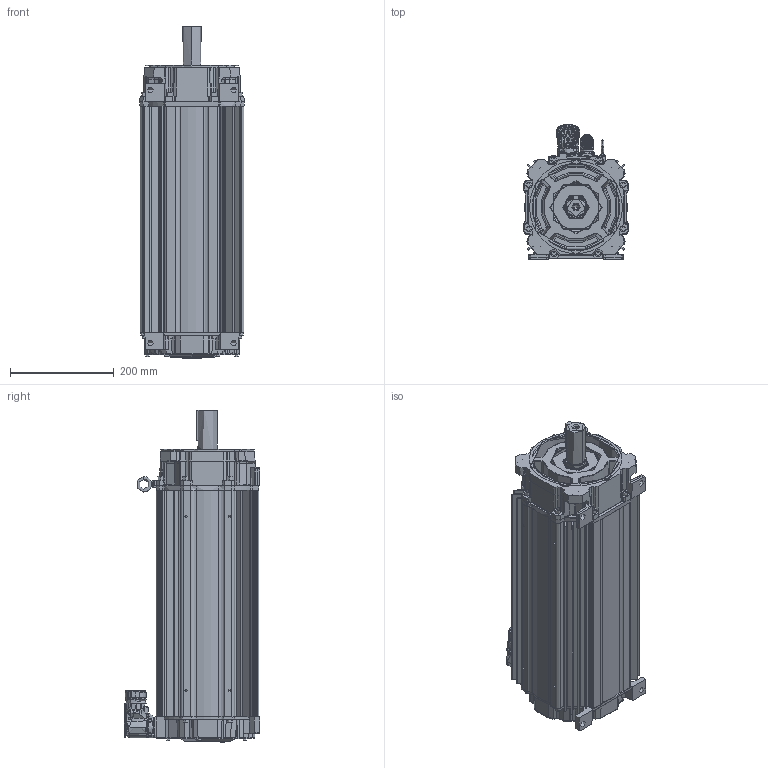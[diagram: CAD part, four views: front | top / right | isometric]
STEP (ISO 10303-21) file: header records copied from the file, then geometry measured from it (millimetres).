
FILE_DESCRIPTION((''),'2;1');
FILE_NAME('10005237081_ASM','2020-01-15T15:48:55',('VThimma'),('Rockwell Automation'),'CREO PARAMETRIC BY PTC INC, 2017380','CREO PARAMETRIC BY PTC INC, 2017380','');
FILE_SCHEMA(('CONFIG_CONTROL_DESIGN','SHAPE_APPEARANCE_LAYERS_GROUPS'));
Products named in the file (27): 10001371539; 10001238886_AF0; 10001298482_AF22; 10001284445_ASM; CH31X150; 10001751331_ASM; 10001788330; 10001830714_ASM; 10001257630_AF255; 10001300098_AF227; 10001284488_ASM; 10001586886; 10000172464; 0002-5005; 10000014325-2; 10000014331; 10000014332-460; 10000014330-460_ASM; PWR40CONN-BRK; PWR40BASE; 10000806125_ASM; 221404-Q12; 10000569218; 10001290343; 0011-2066; 10001609981; 10005237081_ASM
Assembly tree (54 placements, depth 4):
  10005237081_ASM
    10001751331_ASM
      10001371539
      10001284445_ASM
        10001238886_AF0
        10001298482_AF22
      CH31X150  x8
    10001830714_ASM
      10001788330
    10001284488_ASM
      10001257630_AF255
      10001300098_AF227
    10001586886  x8
    10000172464  x5
    0002-5005  x2
    10000014330-460_ASM
      10000014325-2
      10000014331
      10000014332-460
    10000806125_ASM
      PWR40CONN-BRK
      PWR40BASE
    221404-Q12  x10
    10000569218
    10001290343
    0011-2066
    10001609981
Bounding box: 200.45 x 260.05 x 638.79 mm (x, y, z)
Topology: 0 solids, 72 shells, 7493 faces, 19349 edges, 12019 vertices
Faces by surface type: cylinder 2215, plane 1783, bspline 1655, torus 934, cone 688, sphere 175, extrusion 42, revolution 1
Entity records: 386088 total; most frequent: CARTESIAN_POINT 149530, ORIENTED_EDGE 31651, DIRECTION 26576, PRESENTATION_STYLE_ASSIGNMENT 22017, STYLED_ITEM 22017, CURVE_STYLE 15937, EDGE_CURVE 15895, AXIS2_PLACEMENT_3D 10834
